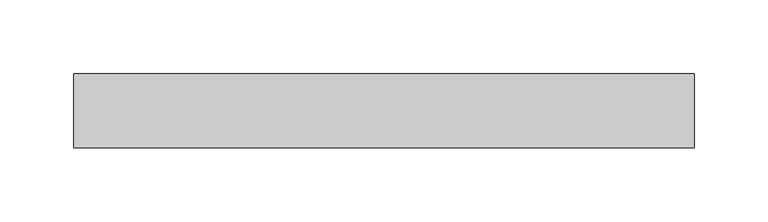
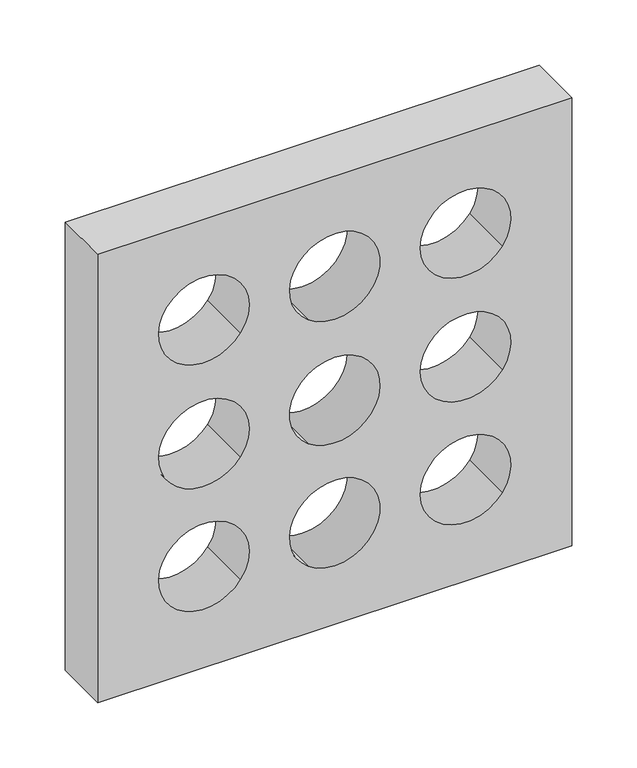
"""IFC4 building model written with IfcOpenShell, lengths in millimetres: proxy geometry, Modelos genéricos - (reduzido)PAINEL VAZADO - 90CM - (reduzido)PAINEL VAZADO - 90CM."""

import ifcopenshell
import ifcopenshell.guid

model = None  # the IFC model being written
_history = None  # IfcOwnerHistory: only IFC2X3 demands one
_inside = {}  # id of a spatial element -> (the spatial element, [elements in it])
_under = {}  # id of a project, library or spatial element -> (it, [spatial elements below it])
_declared = {}  # id of a project -> (the project, [libraries it declares])
_typed = {}  # id of a type object -> (the type object, [elements of that type])
_made_of = {}  # id of a material, layer set ... -> (it, [elements and type objects made of it])


def new_model(schema):
    """Start an empty IFC model of exactly this schema.

    Asked for "IFC4X3", IfcOpenShell would pick the latest addendum, in which some entities
    have other attributes; the version numbers below select the first issue.
    IFC2X3 requires an IfcOwnerHistory on every rooted entity: one is made here for all.
    """
    global model, _history
    if schema == "IFC4X3":
        model = ifcopenshell.file(schema_version=(4, 3, 0, 0))
    else:
        model = ifcopenshell.file(schema=schema)
    _inside.clear()
    _under.clear()
    _declared.clear()
    _typed.clear()
    _made_of.clear()
    _history = None
    if model.schema == "IFC2X3":
        org = make("IfcOrganization", Name="unknown")
        user = make(
            "IfcPersonAndOrganization",
            ThePerson=make("IfcPerson", FamilyName="unknown"),
            TheOrganization=org,
        )
        app = make(
            "IfcApplication",
            ApplicationDeveloper=org,
            Version="unknown",
            ApplicationFullName="unknown",
            ApplicationIdentifier="unknown",
        )
        _history = make(
            "IfcOwnerHistory",
            OwningUser=user,
            OwningApplication=app,
            ChangeAction="ADDED",
            CreationDate=0,
        )
    return model


def make(cls, **values):
    """One entity of the class cls with the attributes given. An attribute that is None is left unset."""
    return model.create_entity(
        cls, **{name: value for name, value in values.items() if value is not None}
    )


def rooted(cls, **values):
    """An entity with a GlobalId (a new one), such as an element, a storey or a relation."""
    return make(cls, GlobalId=ifcopenshell.guid.new(), OwnerHistory=_history, **values)


def si_unit(unit_type, name, prefix=None):
    """IfcSIUnit, for example si_unit("LENGTHUNIT", "METRE", prefix="MILLI")."""
    return make("IfcSIUnit", UnitType=unit_type, Prefix=prefix, Name=name)


def assignment(units):
    """IfcUnitAssignment: the units of a project."""
    return None if units is None else make("IfcUnitAssignment", Units=units)


def point(xyz):
    """IfcCartesianPoint."""
    return None if xyz is None else make("IfcCartesianPoint", Coordinates=xyz)


def direction(xyz):
    """IfcDirection."""
    return None if xyz is None else make("IfcDirection", DirectionRatios=xyz)


def frame(location, z_axis=None, x_axis=None):
    """IfcAxis2Placement3D, a coordinate frame: its origin and axes. An axis left out is left unset."""
    return make(
        "IfcAxis2Placement3D",
        Location=point(location),
        Axis=direction(z_axis),
        RefDirection=direction(x_axis),
    )


def frame_2d(location, x_axis=None):
    """IfcAxis2Placement2D, a coordinate frame in the plane: its origin and x axis."""
    return make(
        "IfcAxis2Placement2D", Location=point(location), RefDirection=direction(x_axis)
    )


def origin():
    """The frame at (0, 0, 0) with its axes left unset."""
    return frame((0.0, 0.0, 0.0))


def place(relative_to, where):
    """IfcLocalPlacement: puts the frame where relative to a parent placement (None: the world)."""
    return make(
        "IfcLocalPlacement", PlacementRelTo=relative_to, RelativePlacement=where
    )


def context(
    kind, dimensions, precision=None, world=None, true_north=None, identifier=None
):
    """IfcGeometricRepresentationContext, for example the 3D "Model" context."""
    return make(
        "IfcGeometricRepresentationContext",
        ContextIdentifier=identifier,
        ContextType=kind,
        CoordinateSpaceDimension=dimensions,
        Precision=precision,
        WorldCoordinateSystem=world,
        TrueNorth=true_north,
    )


def project(units=None, contexts=None):
    """IfcProject with its units and contexts."""
    return rooted(
        "IfcProject",
        Name="project",
        RepresentationContexts=contexts,
        UnitsInContext=assignment(units),
    )


def spatial(cls, under=None, at=None, **own):
    """A site, building, storey or space (cls), placed at a placement, below another one or the project."""
    s = rooted(cls, ObjectPlacement=at, **own)
    if under is not None:
        _under.setdefault(under.id(), (under, []))[1].append(s)
    return s


def polyline(points):
    """IfcPolyline through the points."""
    return make("IfcPolyline", Points=[point(p) for p in points])


def circle_curve(where, radius):
    """IfcCircle in the frame where."""
    return make("IfcCircle", Position=where, Radius=radius)


def trimmed(basis, trim1, trim2, sense, master):
    """IfcTrimmedCurve: the piece of a basis curve between two trims."""
    return make(
        "IfcTrimmedCurve",
        BasisCurve=basis,
        Trim1=trim1,
        Trim2=trim2,
        SenseAgreement=sense,
        MasterRepresentation=master,
    )


def segment(curve, same_sense, transition):
    """IfcCompositeCurveSegment."""
    return make(
        "IfcCompositeCurveSegment",
        Transition=transition,
        SameSense=same_sense,
        ParentCurve=curve,
    )


def composite_curve(segments, self_intersect=None):
    """IfcCompositeCurve: segments joined end to end."""
    return make("IfcCompositeCurve", Segments=segments, SelfIntersect=self_intersect)


def outline(outer, holes=None, kind="AREA"):
    """IfcArbitraryClosedProfileDef: a profile drawn as a closed curve; with holes, ...WithVoids."""
    if holes is None:
        return make("IfcArbitraryClosedProfileDef", ProfileType=kind, OuterCurve=outer)
    return make(
        "IfcArbitraryProfileDefWithVoids",
        ProfileType=kind,
        OuterCurve=outer,
        InnerCurves=holes,
    )


def extrude(swept, where, along, depth):
    """IfcExtrudedAreaSolid: the profile swept, set in the frame where, extruded along a direction by depth."""
    return make(
        "IfcExtrudedAreaSolid",
        SweptArea=swept,
        Position=where,
        ExtrudedDirection=direction(along),
        Depth=depth,
    )


def shape(context_of_items, identifier, shape_type, items):
    """IfcShapeRepresentation: the items that make up one representation, for example the "Body"."""
    return make(
        "IfcShapeRepresentation",
        ContextOfItems=context_of_items,
        RepresentationIdentifier=identifier,
        RepresentationType=shape_type,
        Items=items,
    )


def source(mapping_origin, context_of_items, identifier, shape_type, items):
    """IfcRepresentationMap: a shape defined once, which mapped items show again and again."""
    return make(
        "IfcRepresentationMap",
        MappingOrigin=mapping_origin,
        MappedRepresentation=shape(context_of_items, identifier, shape_type, items),
    )


def transform(
    local_origin,
    x_axis=None,
    y_axis=None,
    z_axis=None,
    scale=None,
    scale2=None,
    scale3=None,
    uniform=True,
):
    """IfcCartesianTransformationOperator3D, or its non-uniform kind. x_axis, y_axis, z_axis: its Axis1, 2, 3."""
    if uniform:
        return make(
            "IfcCartesianTransformationOperator3D",
            Axis1=direction(x_axis),
            Axis2=direction(y_axis),
            LocalOrigin=point(local_origin),
            Scale=scale,
            Axis3=direction(z_axis),
        )
    return make(
        "IfcCartesianTransformationOperator3DnonUniform",
        Axis1=direction(x_axis),
        Axis2=direction(y_axis),
        LocalOrigin=point(local_origin),
        Scale=scale,
        Axis3=direction(z_axis),
        Scale2=scale2,
        Scale3=scale3,
    )


def mapped(mapping_source, mapping_target):
    """IfcMappedItem: shows the shape of a source again, moved by a transform."""
    return make(
        "IfcMappedItem", MappingSource=mapping_source, MappingTarget=mapping_target
    )


def made_of(thing, what):
    """Note that an element or type object is made of a material, layer set ...; save() writes the relation."""
    if what is not None:
        _made_of.setdefault(what.id(), (what, []))[1].append(thing)
    return thing


def element(
    cls,
    number,
    at=None,
    inside=None,
    cuts=None,
    type_object=None,
    material=None,
    context=None,
    identifier="Body",
    shape_type=None,
    held_by="IfcProductDefinitionShape",
    body=None,
    shapes=None,
    **own,
):
    """One element of the class cls, such as IfcWall. Its Tag is "e" and its number.

    at: its placement. inside: the storey or other place that contains it. cuts: it is an
    opening in that element (IfcRelVoidsElement). A single representation is given by context,
    identifier, shape_type and body (its items); several are given by shapes. held_by: the class
    of the entity that holds the representations. save() writes the other relations.
    """
    e = rooted(cls, Tag="e%d" % number, ObjectPlacement=at, **own)
    if body is not None:
        shapes = [shape(context, identifier, shape_type, body)]
    if shapes is not None:
        e.Representation = make(held_by, Representations=shapes)
    if inside is not None:
        _inside.setdefault(inside.id(), (inside, []))[1].append(e)
    if cuts is not None:
        rooted(
            "IfcRelVoidsElement", RelatingBuildingElement=cuts, RelatedOpeningElement=e
        )
    if type_object is not None:
        _typed.setdefault(type_object.id(), (type_object, []))[1].append(e)
    return made_of(e, material)


def aggregate(whole, parts):
    """IfcRelAggregates: a whole, such as a stair, and the parts it consists of."""
    return rooted("IfcRelAggregates", RelatingObject=whole, RelatedObjects=parts)


def save(model, path):
    """Write the relations noted so far, then the file.

    IfcRelAggregates (storeys below a building ...), IfcRelContainedInSpatialStructure (elements
    in a storey), IfcRelDefinesByType, IfcRelAssociatesMaterial and IfcRelDeclares: one each for
    every whole, place, type object, material and project.
    """
    for whole, parts in _under.values():
        aggregate(whole, parts)
    for where, things in _inside.values():
        rooted(
            "IfcRelContainedInSpatialStructure",
            RelatedElements=things,
            RelatingStructure=where,
        )
    for kind, things in _typed.values():
        rooted("IfcRelDefinesByType", RelatedObjects=things, RelatingType=kind)
    for what, things in _made_of.values():
        rooted("IfcRelAssociatesMaterial", RelatedObjects=things, RelatingMaterial=what)
    for by, libraries in _declared.values():
        rooted("IfcRelDeclares", RelatingContext=by, RelatedDefinitions=libraries)
    model.write(path)


def generic_models_84155143(model_context):
    return source(origin(), model_context, "Body", "SweptSolid", [
        extrude(outline(polyline([(450.0, 450.0), (870.0, 450.0), (870.0, 30.0), (450.0, 30.0), (450.0, 450.0)]), holes=[composite_curve([segment(trimmed(circle_curve(frame_2d((660.0, 124.0616384)), 40.0), [point((683.5114101, 91.7009587))], [point((636.4885899, 156.4223182))], True, "CARTESIAN"), True, "CONTINUOUS"), segment(trimmed(circle_curve(frame_2d((660.0, 124.0616384)), 40.0), [point((636.4885899, 156.4223182))], [point((683.5114101, 91.7009587))], True, "CARTESIAN"), True, "CONTINUOUS")], self_intersect=False), composite_curve([segment(trimmed(circle_curve(frame_2d((544.953472, 355.9383616)), 40.0), [point((521.4420619, 388.2990413))], [point((568.4648821, 323.5776818))], True, "CARTESIAN"), True, "CONTINUOUS"), segment(trimmed(circle_curve(frame_2d((544.953472, 355.9383616)), 40.0), [point((568.4648821, 323.5776818))], [point((521.4420619, 388.2990413))], True, "CARTESIAN"), True, "CONTINUOUS")], self_intersect=False), composite_curve([segment(trimmed(circle_curve(frame_2d((775.9383616, 355.9383616)), 40.0), [point((752.4269515, 388.2990413))], [point((799.4497717, 323.5776818))], True, "CARTESIAN"), True, "CONTINUOUS"), segment(trimmed(circle_curve(frame_2d((775.9383616, 355.9383616)), 40.0), [point((799.4497717, 323.5776818))], [point((752.4269515, 388.2990413))], True, "CARTESIAN"), True, "CONTINUOUS")], self_intersect=False), composite_curve([segment(trimmed(circle_curve(frame_2d((660.0, 240.0)), 40.0), [point((627.6393202, 216.4885899))], [point((692.3606798, 263.5114101))], True, "CARTESIAN"), True, "CONTINUOUS"), segment(trimmed(circle_curve(frame_2d((660.0, 240.0)), 40.0), [point((692.3606798, 263.5114101))], [point((627.6393202, 216.4885899))], True, "CARTESIAN"), True, "CONTINUOUS")], self_intersect=False), composite_curve([segment(trimmed(circle_curve(frame_2d((544.953472, 240.0)), 40.0), [point((512.5927922, 216.4885899))], [point((577.3141518, 263.5114101))], True, "CARTESIAN"), True, "CONTINUOUS"), segment(trimmed(circle_curve(frame_2d((544.953472, 240.0)), 40.0), [point((577.3141518, 263.5114101))], [point((512.5927922, 216.4885899))], True, "CARTESIAN"), True, "CONTINUOUS")], self_intersect=False), composite_curve([segment(trimmed(circle_curve(frame_2d((775.9383616, 240.0)), 40.0), [point((743.5776818, 216.4885899))], [point((808.2990413, 263.5114101))], True, "CARTESIAN"), True, "CONTINUOUS"), segment(trimmed(circle_curve(frame_2d((775.9383616, 240.0)), 40.0), [point((808.2990413, 263.5114101))], [point((743.5776818, 216.4885899))], True, "CARTESIAN"), True, "CONTINUOUS")], self_intersect=False), composite_curve([segment(trimmed(circle_curve(frame_2d((660.0, 355.9383616)), 40.0), [point((636.4885899, 388.2990413))], [point((683.5114101, 323.5776818))], True, "CARTESIAN"), True, "CONTINUOUS"), segment(trimmed(circle_curve(frame_2d((660.0, 355.9383616)), 40.0), [point((683.5114101, 323.5776818))], [point((636.4885899, 388.2990413))], True, "CARTESIAN"), True, "CONTINUOUS")], self_intersect=False), composite_curve([segment(trimmed(circle_curve(frame_2d((775.9383616, 124.0616384)), 40.0), [point((799.4497717, 91.7009587))], [point((752.4269515, 156.4223182))], True, "CARTESIAN"), True, "CONTINUOUS"), segment(trimmed(circle_curve(frame_2d((775.9383616, 124.0616384)), 40.0), [point((752.4269515, 156.4223182))], [point((799.4497717, 91.7009587))], True, "CARTESIAN"), True, "CONTINUOUS")], self_intersect=False), composite_curve([segment(trimmed(circle_curve(frame_2d((544.953472, 124.0616384)), 40.0), [point((568.4648821, 91.7009587))], [point((521.4420619, 156.4223182))], True, "CARTESIAN"), True, "CONTINUOUS"), segment(trimmed(circle_curve(frame_2d((544.953472, 124.0616384)), 40.0), [point((521.4420619, 156.4223182))], [point((568.4648821, 91.7009587))], True, "CARTESIAN"), True, "CONTINUOUS")], self_intersect=False)]), frame((0.0, -50.0, 0.0), z_axis=(0.0, 1.0, 0.0), x_axis=(0.0, 0.0, 1.0)), (0.0, 0.0, 1.0), 50.0),
    ])


if __name__ == "__main__":
    model = new_model("IFC4")
    model_context = context("Model", 3, world=origin())
    ifc_project = project(units=[si_unit("LENGTHUNIT", "METRE", prefix="MILLI")], contexts=[model_context])
    site = spatial("IfcSite", under=ifc_project)
    building = spatial("IfcBuilding", under=site)
    placement = place(None, origin())
    generic_models_shape = generic_models_84155143(model_context)
    element("IfcBuildingElementProxy", 1, Name="Modelos genéricos - (reduzido)PAINEL VAZADO - 90CM - (reduzido)PAINEL VAZADO - 90CM", ObjectType="Modelos genéricos - (reduzido)PAINEL VAZADO - 90CM - (reduzido)PAINEL VAZADO - 90CM", at=placement, inside=building, context=model_context, shape_type="MappedRepresentation", body=[
        mapped(generic_models_shape, transform((0.0, 0.0, 0.0), x_axis=(1.0, 0.0, 0.0), y_axis=(0.0, 1.0, 0.0), z_axis=(0.0, 0.0, 1.0))),
    ])
    save(model, "model.ifc")
